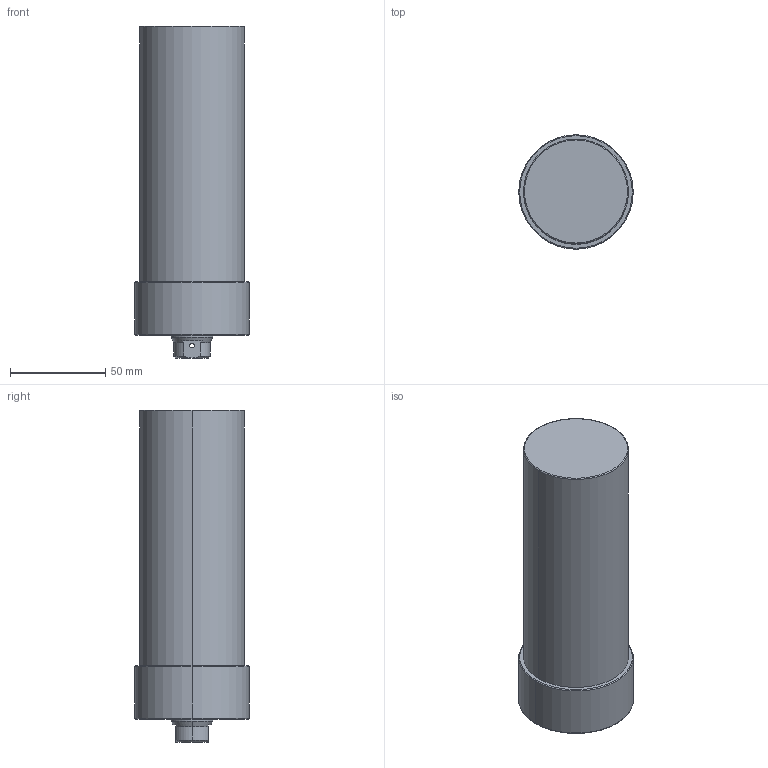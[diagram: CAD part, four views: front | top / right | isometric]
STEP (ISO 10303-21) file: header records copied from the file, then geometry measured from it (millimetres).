
FILE_DESCRIPTION (( 'STEP AP203' ), '1' );
FILE_NAME ('CLLU-055GB-105.STEP', '2020-01-06T07:21:21', ( '' ), ( '' ), 'SwSTEP 2.0', 'SolidWorks 2015', '' );
FILE_SCHEMA (( 'CONFIG_CONTROL_DESIGN' ));
Length unit declared in the file: millimetre
Products named in the file (1): CLLU-055GB-105
Bounding box: 60 x 60 x 174 mm (x, y, z)
Volume: 397820 mm3; surface area: 36524.7 mm2
Topology: 1 solids, 1 shells, 68 faces, 155 edges, 88 vertices
Faces by surface type: cylinder 27, cone 25, plane 10, torus 6
Entity records: 2021 total; most frequent: CARTESIAN_POINT 422, DIRECTION 350, ORIENTED_EDGE 290, AXIS2_PLACEMENT_3D 148, EDGE_CURVE 145, VERTEX_POINT 88, EDGE_LOOP 81, CIRCLE 79
